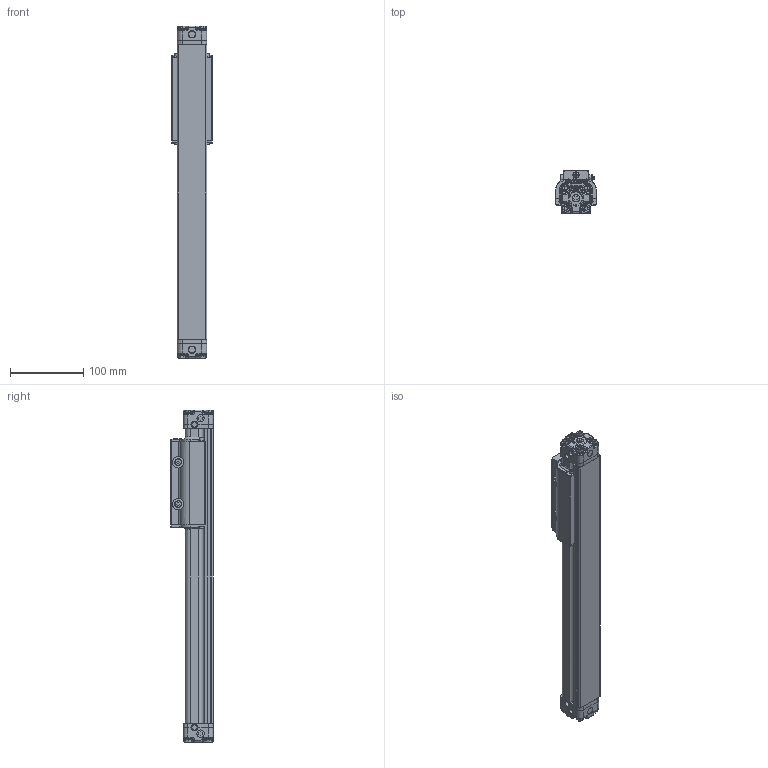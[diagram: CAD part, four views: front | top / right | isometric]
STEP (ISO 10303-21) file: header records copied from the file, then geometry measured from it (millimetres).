
FILE_DESCRIPTION (( 'STEP AP203' ), '1' );
FILE_NAME ('BC210_NP_SK10.000_BC2-492135-1.step', '2025-07-07T13:35:10', ( '' ), ( '' ), 'SwSTEP 2.0', 'SolidWorks 2024', '' );
FILE_SCHEMA (( 'CONFIG_CONTROL_DESIGN' ));
Length unit declared in the file: inch
Products named in the file (3): 05109057_BC210_NP_SK10.000_BC2-492135-1; Base_BC210_NP_SK10.000_BC2-492135-1; BC210_NP_SK10.000_BC2-492135-1
Assembly tree (2 placements, depth 2):
  BC210_NP_SK10.000_BC2-492135-1
    05109057_BC210_NP_SK10.000_BC2-492135-1
    Base_BC210_NP_SK10.000_BC2-492135-1
Bounding box: 55.47 x 58.55 x 454.3 mm (x, y, z)
Volume: 657839 mm3; surface area: 161651.2 mm2
Topology: 2 solids, 19 shells, 1598 faces, 4065 edges, 2629 vertices
Faces by surface type: plane 932, bspline 298, cylinder 212, cone 88, torus 50, sphere 18
Full cylindrical faces by diameter (mm): 3.353 x2, 3.505 x2, 4.039 x2, 4.216 x2, 4.801 x2, 4.826 x12, 5.105 x2, 5.563 x2, 5.74 x6, 7.087 x4, 7.137 x4, 7.366 x2, 7.925 x2, 8.56 x2, 9.5 x2, 9.906 x2, 10.033 x2, 10.16 x8, 12.7 x2, 15.875 x4, 16.993 x2, 22.352 x1, 25.324 x2, 25.4 x1
Entity records: 59591 total; most frequent: CARTESIAN_POINT 23409, ORIENTED_EDGE 7692, DIRECTION 6430, EDGE_CURVE 3846, VERTEX_POINT 2556, VECTOR 2544, LINE 2544, AXIS2_PLACEMENT_3D 1943
